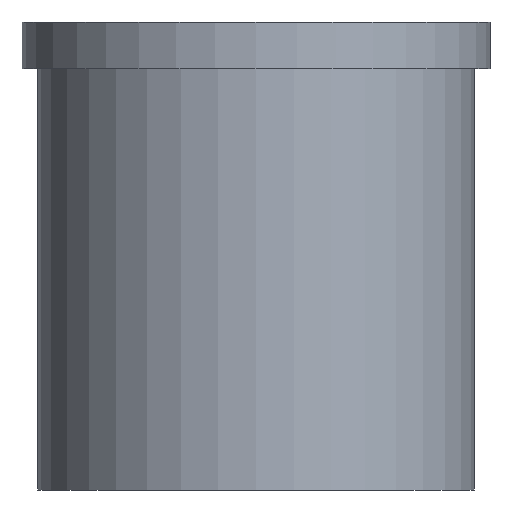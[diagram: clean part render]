
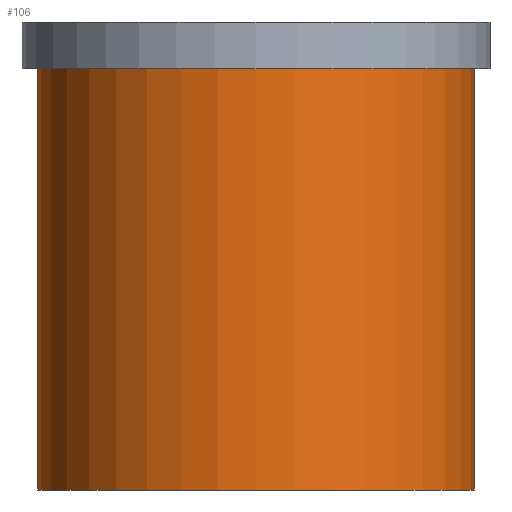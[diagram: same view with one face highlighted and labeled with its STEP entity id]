
A CAD part, front view. The second image highlights one B-rep face of the part: STEP entity #106.
In plain terms, the highlighted cylindrical face has radius 14 mm (diameter 28 mm), a partial arc.
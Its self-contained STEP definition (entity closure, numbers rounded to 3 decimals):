
#106=ADVANCED_FACE('',(#121),#115,.T.);
#115=CYLINDRICAL_SURFACE('',#232,14.);
#121=FACE_OUTER_BOUND('',#127,.T.);
#127=EDGE_LOOP('',(#151,#152,#153,#154));
#139=CIRCLE('',#230,14.);
#140=CIRCLE('',#231,14.);
#151=ORIENTED_EDGE('',*,*,#199,.T.);
#152=ORIENTED_EDGE('',*,*,#200,.F.);
#153=ORIENTED_EDGE('',*,*,#201,.F.);
#154=ORIENTED_EDGE('',*,*,#202,.T.);
#187=VERTEX_POINT('',#303);
#188=VERTEX_POINT('',#304);
#189=VERTEX_POINT('',#306);
#190=VERTEX_POINT('',#308);
#199=EDGE_CURVE('',#187,#188,#217,.T.);
#200=EDGE_CURVE('',#189,#188,#139,.T.);
#201=EDGE_CURVE('',#190,#189,#218,.T.);
#202=EDGE_CURVE('',#190,#187,#140,.T.);
#217=LINE('',#302,#223);
#218=LINE('',#307,#224);
#223=VECTOR('',#253,1.);
#224=VECTOR('',#256,1.);
#230=AXIS2_PLACEMENT_3D('',#305,#254,#255);
#231=AXIS2_PLACEMENT_3D('',#309,#257,#258);
#232=AXIS2_PLACEMENT_3D('',#310,#259,#260);
#253=DIRECTION('',(0.,0.,-1.));
#254=DIRECTION('',(0.,0.,-1.));
#255=DIRECTION('',(0.,1.,0.));
#256=DIRECTION('',(0.,0.,-1.));
#257=DIRECTION('',(0.,0.,-1.));
#258=DIRECTION('',(0.,1.,0.));
#259=DIRECTION('',(0.,0.,-1.));
#260=DIRECTION('',(0.,-1.,0.));
#302=CARTESIAN_POINT('',(-14.,0.,0.));
#303=CARTESIAN_POINT('',(-14.,0.,0.));
#304=CARTESIAN_POINT('',(-14.,0.,-27.));
#305=CARTESIAN_POINT('',(0.,0.,-27.));
#306=CARTESIAN_POINT('',(14.,0.,-27.));
#307=CARTESIAN_POINT('',(14.,0.,0.));
#308=CARTESIAN_POINT('',(14.,0.,0.));
#309=CARTESIAN_POINT('',(0.,0.,0.));
#310=CARTESIAN_POINT('',(0.,0.,0.));
